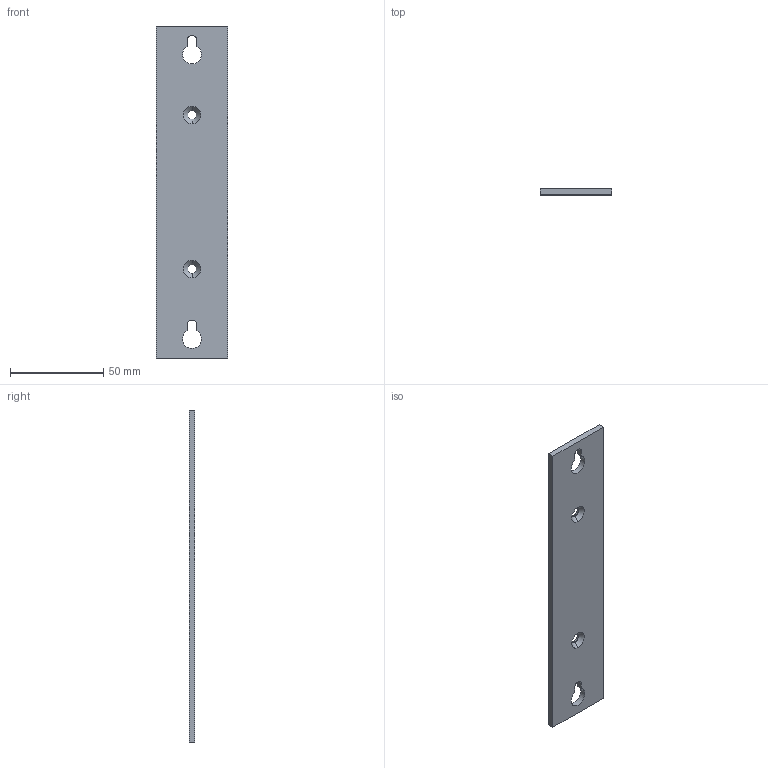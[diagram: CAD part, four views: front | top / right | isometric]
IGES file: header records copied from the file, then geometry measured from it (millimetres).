
Start section:  PTC IGES file: cu_cfp_panel_mount_ver.igs
Global section: file name: cu_cfp_panel_mount_ver.igs; native system: Pro/ENGINEER by Parametric Technology Corporation; preprocessor: 2006300; author: chrisj; organization: Unknown; date: 20070716.142921; units: inch
Bounding box: 38.1 x 3.17 x 177.8 mm (x, y, z)
Surface area: 14755.3 mm2 (no closed solid volume)
Topology: 0 solids, 0 shells, 22 faces, 112 edges, 112 vertices
Faces by surface type: revolution 12, bspline 10
